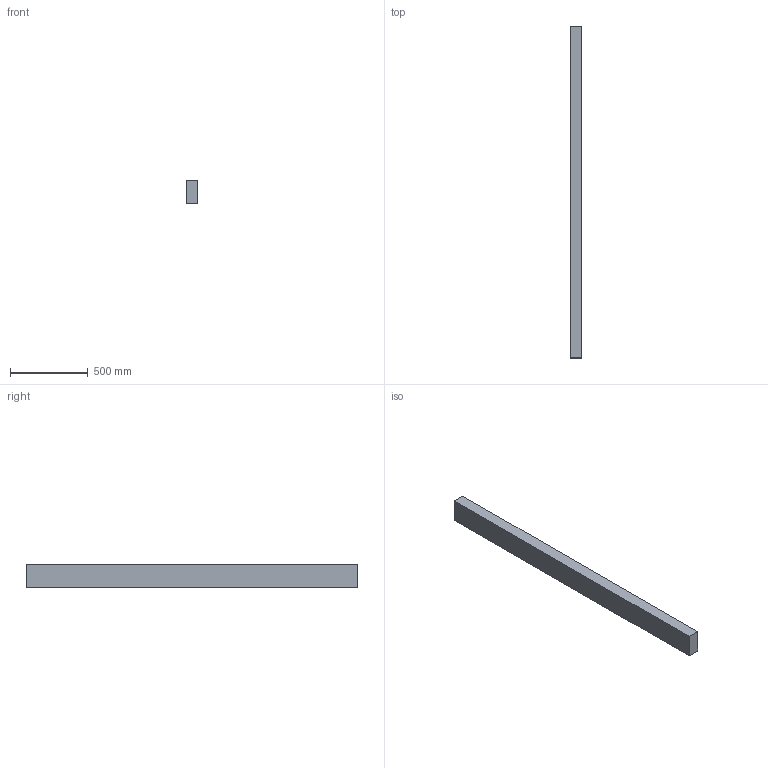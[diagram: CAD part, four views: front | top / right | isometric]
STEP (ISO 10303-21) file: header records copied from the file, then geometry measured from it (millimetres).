
FILE_DESCRIPTION(/* description */ (''),/* implementation_level */ '2;1');
FILE_NAME(/* name */ '3x6x84',/* time_stamp */ '2024-09-20T11:43:49-05:00',/* author */ (''),/* organization */ (''),/* preprocessor_version */ 'ST-DEVELOPER v19.2',/* originating_system */ 'Rhino 8.5',/* authorisation */ '');
FILE_SCHEMA (('CONFIG_CONTROL_DESIGN'));
Length unit declared in the file: inch
Products named in the file (1): Document
Bounding box: 76.2 x 2133.6 x 152.4 mm (x, y, z)
Volume: 24777240.8 mm3; surface area: 998707.7 mm2
Topology: 1 solids, 1 shells, 6 faces, 12 edges, 8 vertices
Faces by surface type: plane 6
Entity records: 226 total; most frequent: CARTESIAN_POINT 40, ORIENTED_EDGE 24, EDGE_CURVE 12, B_SPLINE_CURVE_WITH_KNOTS 12, DIRECTION 10, VERTEX_POINT 8, AXIS2_PLACEMENT_3D 8, ORGANIZATION 7
